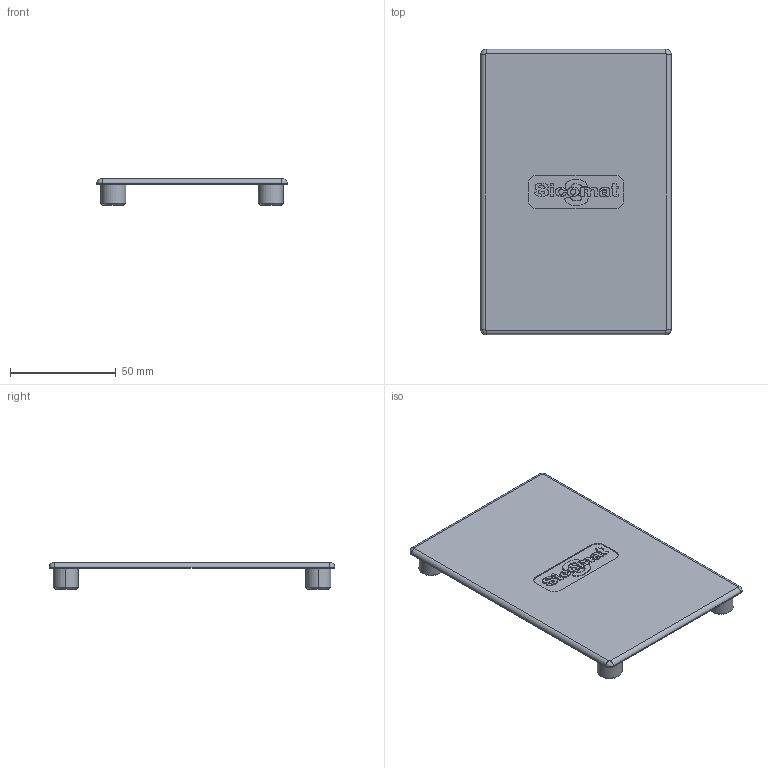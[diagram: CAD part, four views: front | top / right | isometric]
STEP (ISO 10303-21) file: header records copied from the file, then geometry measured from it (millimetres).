
FILE_DESCRIPTION (( 'STEP AP203' ), '1' );
FILE_NAME ('900.400.003.STEP', '2014-09-11T07:54:38', ( '' ), ( '' ), 'SwSTEP 2.0', 'SolidWorks 2012', '' );
FILE_SCHEMA (( 'CONFIG_CONTROL_DESIGN' ));
Length unit declared in the file: millimetre
Products named in the file (1): 900.400.003
Bounding box: 90 x 135 x 12.5 mm (x, y, z)
Volume: 31765.5 mm3; surface area: 27549.6 mm2
Topology: 1 solids, 1 shells, 207 faces, 510 edges, 332 vertices
Faces by surface type: bspline 96, plane 63, cylinder 28, torus 12, cone 8
Entity records: 6701 total; most frequent: CARTESIAN_POINT 2310, ORIENTED_EDGE 1020, DIRECTION 626, EDGE_CURVE 510, VERTEX_POINT 332, VECTOR 234, LINE 234, EDGE_LOOP 234
